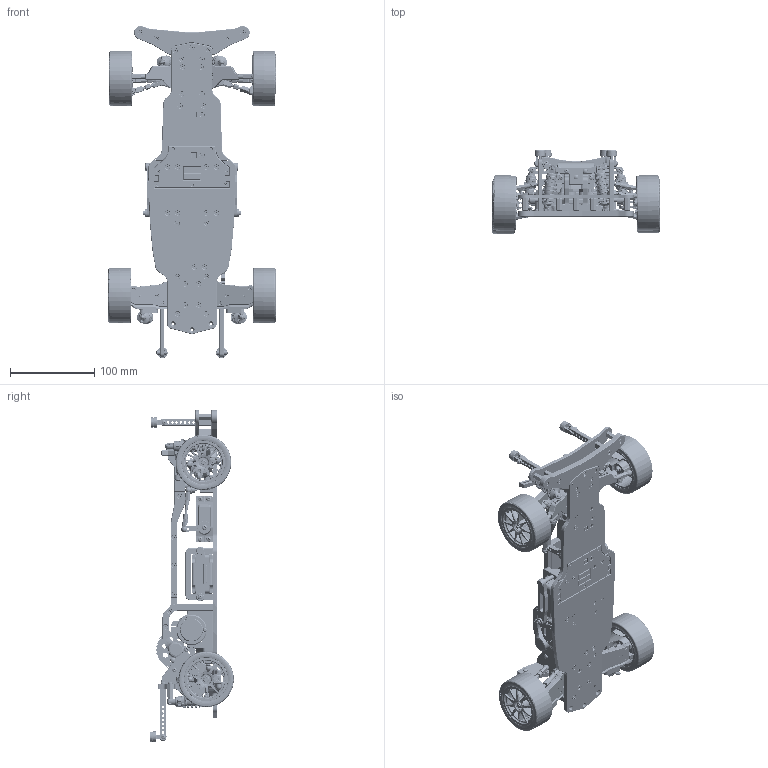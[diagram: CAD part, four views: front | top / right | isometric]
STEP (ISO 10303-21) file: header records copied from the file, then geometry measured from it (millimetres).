
FILE_DESCRIPTION (( 'STEP AP214' ), '1' );
FILE_NAME ('RC_Chassis_Assembly_v1.STEP', '2023-05-11T18:48:13', ( '' ), ( '' ), 'SwSTEP 2.0', 'SolidWorks 2022', '' );
FILE_SCHEMA (( 'AUTOMOTIVE_DESIGN' ));
Length unit declared in the file: millimetre
Products named in the file (103): Knuckle_Front_LHS; Pin 2x22; ScrewBottom; Ball Stud 5,5x6; Spacer_3x5,5x2; Magnet_Attachment; 60TM0,6x10_Gear_edited_v2; M4 Nyloc Nut; Chassis_Plate_v2; Wheel_Tyre; Steering_arm_main; 20TM0,6x10_Gear_Edited; Front_Shock_Tower_v1; M3 Nyloc Nut; 48P87T_5mm_Spur; M3x10_RoundHead; Steering_Support; Screw Top; Front_Upper_Arm_RHS; M3x30_SetScrew; Turnbuckel_25mm; M3x5_RoundHead; Shaft 2; RC_Chassis_Assembly_v1; Rear_Axle_4; RodEnd_4,8x22mm; cheetah_По умолчанию; Shock_63,5mm; Main Shaft_v4; magnet; RodEnd_18mm; Disk; Rod; Rear_Shock_Tower_v5; Steering_Spacer_upper; Rear_Suspension_Mount; Rear_Axle; TopSusp; Steering_Arm_LHS; Front_Suspension_Mount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
Assembly tree (361 placements, depth 3):
  RC_Chassis_Assembly_v1
    Front_Suspension_Mount  x2
    Front_Upper_Arm_Mount
    Knuckle_Front_LHS
    Spacer_3x6x3  x4
    Front_Upper_Arm
    Spacer_2x5x2  x4
    Ball Stud 4,8x5  x18
    RodEnd_4,8x22mm  x10
    Turnbuckel_25mm  x6
    Rear_Suspension_Mount  x2
    Rear_Lower_Arm_v3
    Spacer_3x5,5x2  x4
    Chassis_Plate_v2
    GearBox_Case
    GearBox_Case_RHS_v3
    Shaft 2
    Main Shaft_v4
    10x15x4_ball_bearing  x5
    8x12x3,5_ball_bearing  x4
    60TM0,6x10_Gear_edited_v2
    26TM0,6x10_Gear_edited
    20TM0,6x10_Gear_Edited
    Disk
    48P87T_5mm_Spur
    Motor_Mount_Bracket_RHS_v2
    Motor_Mount_Bracket_LHS
    Motor_Mount_Support
    Motor_mount_v2
    Servo_Bracket  x2
    Battery
    cheetah_По умолчанию
    48P25T x 4mm Pinion_edited
    Steering Bracket
    Steering_Support
    Steering_Spacer_lower  x2
    Steering_Arm_LHS
    Steering_Spacer_upper  x2
    3x6x2,5_ball_bearing  x8
    Steering_arm_main
    Front_Upper_Arm_Mount_RHS
    Deck_LHS
    Wheel_Tyre  x4
    Front_Lower_Arm_v4
    Front_Upper_Arm_RHS
    Front_Lower_Arm_v4_RHS
    Knuckle_Front_RHS
    Rear_Lower_Arm_v3_RHS
    Steering_Arm_RHS
    Steering_Arm_servo
    Ball Stud 5,5x6  x4
    RodEnd_18mm  x4
    Rear_Axle_Joint  x2
    Rear_Knuckle_v1  x2
    5x11x4_ball_bearing  x6
    Rear_Axle
      Rear_Axle_1
      Rear_Axle_2
      Rear_Axle_3
      Rear_Axle_4
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Bounding box: 198.58 x 99.2 x 393.43 mm (x, y, z)
Volume: 689586.3 mm3; surface area: 518997.4 mm2
Topology: 405 solids, 419 shells, 24183 faces, 58466 edges, 35097 vertices
Faces by surface type: plane 8116, cylinder 6586, bspline 3601, cone 3389, torus 1907, sphere 584
Entity records: 393254 total; most frequent: CARTESIAN_POINT 130767, ORIENTED_EDGE 54066, DIRECTION 51861, EDGE_CURVE 27036, AXIS2_PLACEMENT_3D 20244, VERTEX_POINT 16589, EDGE_LOOP 12033, VECTOR 11373
